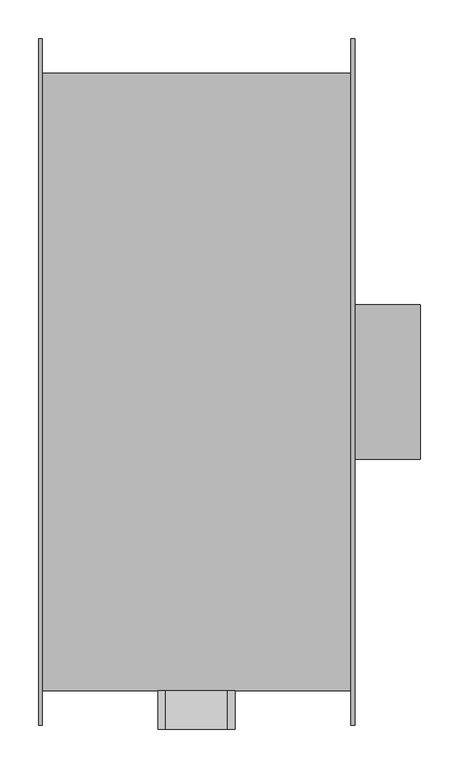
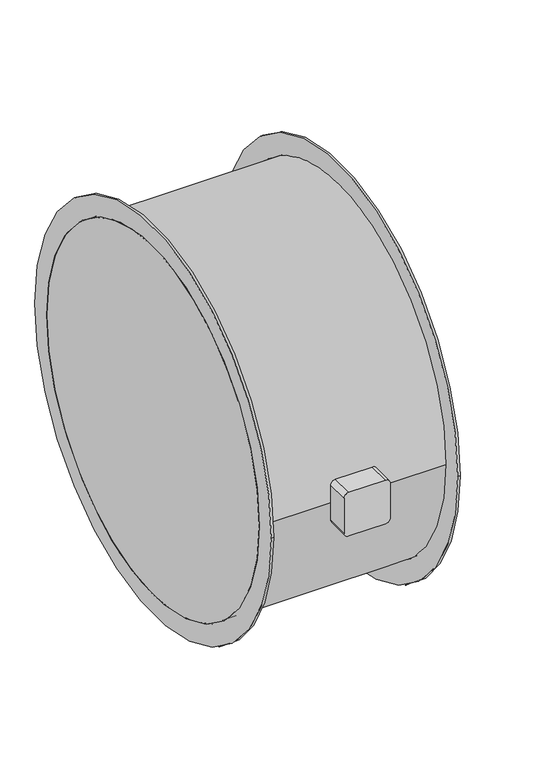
"""IFC4 building model written with IfcOpenShell, lengths in millimetres: unitary equipment geometry, VE-Wentylator-ParaForma-Harmann-AXER-Nawiewny : 800/4/30000T."""

from ifc_helpers import new_model, si_unit, point, frame, frame_2d, origin, origin_2d, place, context, project, spatial, polyline, circle_curve, trimmed, segment, composite_curve, outline, extrude, source, transform, mapped, element, save


def unitary_equipment_d049be31(model_context):
    return source(origin(), model_context, "Body", "SweptSolid", [
        extrude(outline(composite_curve([segment(trimmed(circle_curve(origin_2d(), 100.0), [point((-100.0, 0.0))], [point((100.0, 0.0))], False, "CARTESIAN"), True, "CONTINUOUS"), segment(trimmed(circle_curve(origin_2d(), 100.0), [point((100.0, 0.0))], [point((-100.0, 0.0))], False, "CARTESIAN"), True, "CONTINUOUS")], self_intersect=False)), frame((205.0, 0.0, 0.0), z_axis=(1.0, 0.0, 0.0), x_axis=(0.0, 1.0, 0.0)), (0.0, 0.0, 1.0), 85.0),
        extrude(outline(composite_curve([segment(trimmed(circle_curve(frame_2d((-40.0, 40.0)), 10.0), [point((-50.0, 40.0))], [point((-40.0, 50.0))], False, "CARTESIAN"), True, "CONTINUOUS"), segment(polyline([(-40.0, 50.0), (40.0, 50.0)]), True, "CONTINUOUS"), segment(trimmed(circle_curve(frame_2d((40.0, 40.0)), 10.0), [point((40.0, 50.0))], [point((50.0, 40.0))], False, "CARTESIAN"), True, "CONTINUOUS"), segment(polyline([(50.0, 40.0), (50.0, -40.0)]), True, "CONTINUOUS"), segment(trimmed(circle_curve(frame_2d((40.0, -40.0)), 10.0), [point((50.0, -40.0))], [point((40.0, -50.0))], False, "CARTESIAN"), True, "CONTINUOUS"), segment(polyline([(40.0, -50.0), (-40.0, -50.0)]), True, "CONTINUOUS"), segment(trimmed(circle_curve(frame_2d((-40.0, -40.0)), 10.0), [point((-40.0, -50.0))], [point((-50.0, -40.0))], False, "CARTESIAN"), True, "CONTINUOUS"), segment(polyline([(-50.0, -40.0), (-50.0, 40.0)]), True, "CONTINUOUS")], self_intersect=False)), frame((0.0, -450.0, 0.0), z_axis=(0.0, 1.0, 0.0), x_axis=(0.0, 0.0, 1.0)), (0.0, 0.0, 1.0), 50.0),
        extrude(outline(composite_curve([segment(trimmed(circle_curve(origin_2d(), 445.0), [point((-445.0, 0.0))], [point((445.0, 0.0))], False, "CARTESIAN"), True, "CONTINUOUS"), segment(trimmed(circle_curve(origin_2d(), 445.0), [point((445.0, 0.0))], [point((-445.0, 0.0))], False, "CARTESIAN"), True, "CONTINUOUS")], self_intersect=False), holes=[composite_curve([segment(trimmed(circle_curve(origin_2d(), 400.0), [point((-400.0, 0.0))], [point((400.0, 0.0))], True, "CARTESIAN"), True, "CONTINUOUS"), segment(trimmed(circle_curve(origin_2d(), 400.0), [point((400.0, 0.0))], [point((-400.0, 0.0))], True, "CARTESIAN"), True, "CONTINUOUS")], self_intersect=False)]), frame((200.0, 0.0, 0.0), z_axis=(1.0, 0.0, 0.0), x_axis=(0.0, 1.0, 0.0)), (0.0, 0.0, 1.0), 5.0),
        extrude(outline(composite_curve([segment(trimmed(circle_curve(origin_2d(), 445.0), [point((-445.0, 0.0))], [point((445.0, 0.0))], False, "CARTESIAN"), True, "CONTINUOUS"), segment(trimmed(circle_curve(origin_2d(), 445.0), [point((445.0, 0.0))], [point((-445.0, 0.0))], False, "CARTESIAN"), True, "CONTINUOUS")], self_intersect=False), holes=[composite_curve([segment(trimmed(circle_curve(origin_2d(), 400.0), [point((-400.0, 0.0))], [point((400.0, 0.0))], True, "CARTESIAN"), True, "CONTINUOUS"), segment(trimmed(circle_curve(origin_2d(), 400.0), [point((400.0, 0.0))], [point((-400.0, 0.0))], True, "CARTESIAN"), True, "CONTINUOUS")], self_intersect=False)]), frame((-205.0, 0.0, 0.0), z_axis=(1.0, 0.0, 0.0), x_axis=(0.0, 1.0, 0.0)), (0.0, 0.0, 1.0), 5.0),
        extrude(outline(composite_curve([segment(trimmed(circle_curve(origin_2d(), 400.0), [point((-400.0, 0.0))], [point((400.0, 0.0))], False, "CARTESIAN"), True, "CONTINUOUS"), segment(trimmed(circle_curve(origin_2d(), 400.0), [point((400.0, 0.0))], [point((-400.0, 0.0))], False, "CARTESIAN"), True, "CONTINUOUS")], self_intersect=False)), frame((-205.0, 0.0, 0.0), z_axis=(1.0, 0.0, 0.0), x_axis=(0.0, 1.0, 0.0)), (0.0, 0.0, 1.0), 410.0),
    ])


if __name__ == "__main__":
    model = new_model("IFC4")
    model_context = context("Model", 3, world=origin())
    ifc_project = project(units=[si_unit("LENGTHUNIT", "METRE", prefix="MILLI")], contexts=[model_context])
    site = spatial("IfcSite", under=ifc_project)
    building = spatial("IfcBuilding", under=site)
    placement = place(None, origin())
    unitary_equipment_shape = unitary_equipment_d049be31(model_context)
    element("IfcUnitaryEquipment", 1, ObjectType="VE-Wentylator-ParaForma-Harmann-AXER-Nawiewny : 800/4/30000T", at=placement, inside=building, context=model_context, shape_type="MappedRepresentation", body=[
        mapped(unitary_equipment_shape, transform((0.0, 0.0, 0.0), x_axis=(1.0, 0.0, 0.0), y_axis=(0.0, 1.0, 0.0), z_axis=(0.0, 0.0, 1.0))),
    ])
    save(model, "model.ifc")
